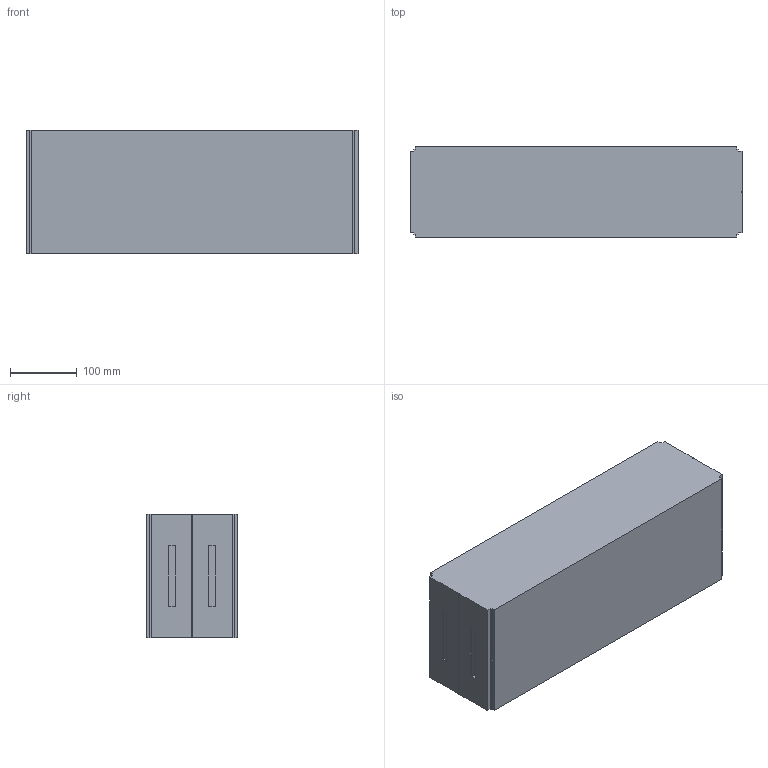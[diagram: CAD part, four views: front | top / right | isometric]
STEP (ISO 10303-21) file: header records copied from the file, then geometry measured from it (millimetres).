
FILE_DESCRIPTION (( 'STEP AP214' ), '1' );
FILE_NAME ('FS-MTC2-150-INOX Kettingmont. eenheid.500 Kettingmont.STEP', '2017-02-08T12:41:23', ( '' ), ( '' ), 'SwSTEP 2.0', 'SolidWorks 2016', '' );
FILE_SCHEMA (( 'AUTOMOTIVE_DESIGN' ));
Length unit declared in the file: millimetre
Products named in the file (1): FS-MTC2-150-INOX Kettingmont. eenheid.500 Kettingmont
Bounding box: 499 x 136.5 x 185 mm (x, y, z)
Volume: 12553533 mm3; surface area: 373711.6 mm2
Topology: 1 solids, 1 shells, 50 faces, 132 edges, 88 vertices
Faces by surface type: plane 50
Entity records: 1550 total; most frequent: CARTESIAN_POINT 271, ORIENTED_EDGE 264, DIRECTION 234, EDGE_CURVE 132, LINE 132, VECTOR 132, VERTEX_POINT 88, EDGE_LOOP 54
